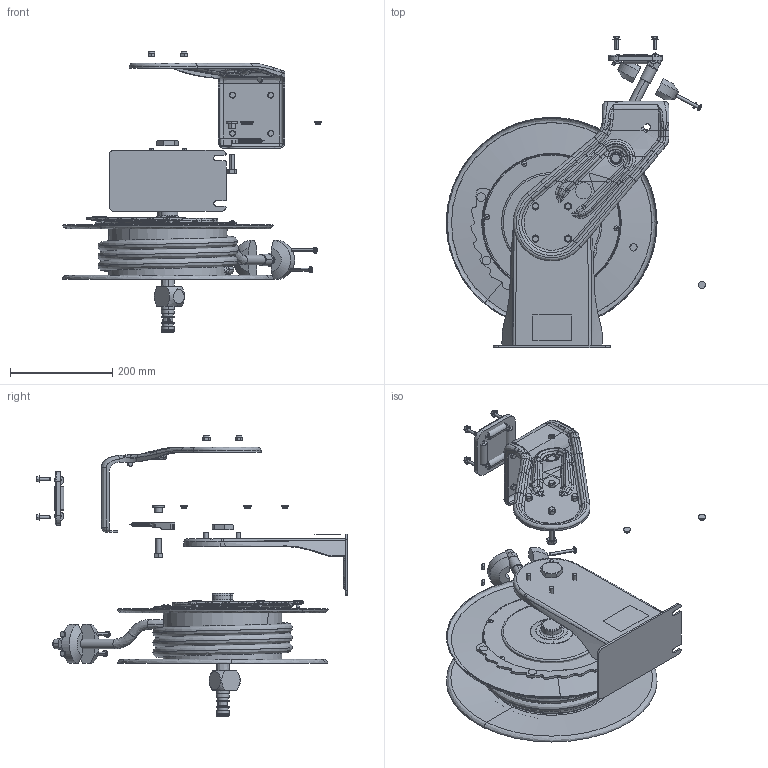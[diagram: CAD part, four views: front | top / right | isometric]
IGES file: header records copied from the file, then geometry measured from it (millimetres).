
Start section:  PTC IGES file: hph23a-en-z.igs
Global section: file name: hph23a-en-z.igs; native system: Creo Parametric by PTC Inc.; preprocessor: 2019030; author: qusrh3; organization: Unknown; date: 20200101.120909; units: inch
Bounding box: 506.75 x 608.19 x 548.78 mm (x, y, z)
Surface area: 1433597.8 mm2 (no closed solid volume)
Topology: 0 solids, 0 shells, 1652 faces, 7492 edges, 7480 vertices
Faces by surface type: revolution 940, bspline 710, extrusion 2
